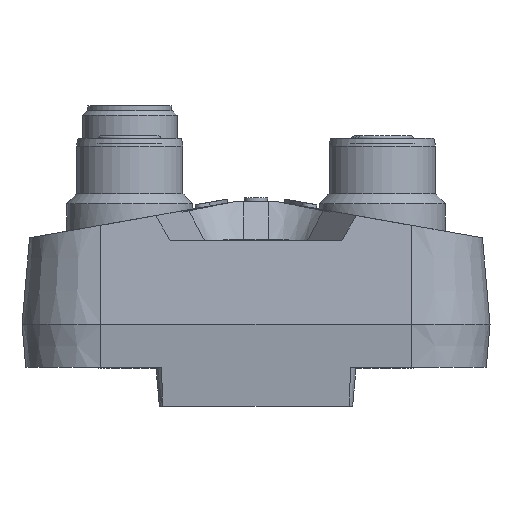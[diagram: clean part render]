
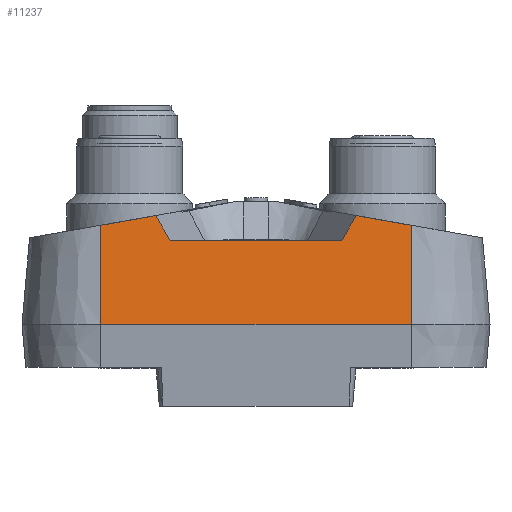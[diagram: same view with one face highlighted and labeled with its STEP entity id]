
A CAD part, front view. The second image highlights one B-rep face of the part: STEP entity #11237.
In plain terms, the highlighted planar face has unit normal (0, -0.996, 0.087).
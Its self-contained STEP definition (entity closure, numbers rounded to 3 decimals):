
#1029=ORIENTED_EDGE('',*,*,#3216,.F.);
#1030=ORIENTED_EDGE('',*,*,#3211,.F.);
#1031=ORIENTED_EDGE('',*,*,#3217,.T.);
#1032=ORIENTED_EDGE('',*,*,#3218,.T.);
#1033=ORIENTED_EDGE('',*,*,#3219,.F.);
#1034=ORIENTED_EDGE('',*,*,#3208,.F.);
#1035=ORIENTED_EDGE('',*,*,#3220,.F.);
#1036=ORIENTED_EDGE('',*,*,#3221,.F.);
#3208=EDGE_CURVE('',#4297,#4298,#4983,.F.);
#3211=EDGE_CURVE('',#4300,#4301,#4985,.F.);
#3216=EDGE_CURVE('',#4301,#4305,#4989,.F.);
#3217=EDGE_CURVE('',#4300,#4306,#4990,.T.);
#3218=EDGE_CURVE('',#4306,#4307,#4991,.T.);
#3219=EDGE_CURVE('',#4298,#4307,#4992,.T.);
#3220=EDGE_CURVE('',#4308,#4297,#4993,.F.);
#3221=EDGE_CURVE('',#4305,#4308,#4994,.F.);
#4297=VERTEX_POINT('',#15731);
#4298=VERTEX_POINT('',#15733);
#4300=VERTEX_POINT('',#15739);
#4301=VERTEX_POINT('',#15740);
#4305=VERTEX_POINT('',#15750);
#4306=VERTEX_POINT('',#15752);
#4307=VERTEX_POINT('',#15754);
#4308=VERTEX_POINT('',#15757);
#4983=LINE('',#15732,#5543);
#4985=LINE('',#15738,#5545);
#4989=LINE('',#15749,#5549);
#4990=LINE('',#15751,#5550);
#4991=LINE('',#15753,#5551);
#4992=LINE('',#15755,#5552);
#4993=LINE('',#15756,#5553);
#4994=LINE('',#15758,#5554);
#5543=VECTOR('',#13064,1000.);
#5545=VECTOR('',#13070,1000.);
#5549=VECTOR('',#13078,1000.);
#5550=VECTOR('',#13079,1000.);
#5551=VECTOR('',#13080,1000.);
#5552=VECTOR('',#13081,1000.);
#5553=VECTOR('',#13082,1000.);
#5554=VECTOR('',#13083,1000.);
#6060=EDGE_LOOP('',(#1029,#1030,#1031,#1032,#1033,#1034,#1035,#1036));
#6756=FACE_BOUND('',#6060,.T.);
#7436=PLANE('',#11849);
#11237=ADVANCED_FACE('',(#6756),#7436,.T.);
#11849=AXIS2_PLACEMENT_3D('',#15748,#13076,#13077);
#13064=DIRECTION('',(-0.985,0.015,0.174));
#13070=DIRECTION('',(-0.985,-0.015,-0.174));
#13076=DIRECTION('',(0.,-0.996,0.087));
#13077=DIRECTION('',(0.,-0.087,-0.996));
#13078=DIRECTION('',(-0.505,0.075,0.86));
#13079=DIRECTION('',(0.,-0.087,-0.996));
#13080=DIRECTION('',(1.,0.,0.));
#13081=DIRECTION('',(0.,-0.087,-0.996));
#13082=DIRECTION('',(-0.505,-0.075,-0.86));
#13083=DIRECTION('',(-1.,0.,0.));
#15731=CARTESIAN_POINT('',(12.72,1.207,13.792));
#15732=CARTESIAN_POINT('',(-16.291,1.654,18.907));
#15733=CARTESIAN_POINT('',(19.65,1.1,12.57));
#15738=CARTESIAN_POINT('',(-21.816,1.066,12.188));
#15739=CARTESIAN_POINT('',(-19.65,1.1,12.57));
#15740=CARTESIAN_POINT('',(-12.72,1.207,13.792));
#15748=CARTESIAN_POINT('',(-19.65,0.,0.));
#15749=CARTESIAN_POINT('',(-8.453,0.571,6.526));
#15750=CARTESIAN_POINT('',(-10.875,0.932,10.65));
#15751=CARTESIAN_POINT('',(-19.65,0.,0.));
#15752=CARTESIAN_POINT('',(-19.65,0.,0.));
#15753=CARTESIAN_POINT('',(-19.65,0.,0.));
#15754=CARTESIAN_POINT('',(19.65,0.,0.));
#15755=CARTESIAN_POINT('',(19.65,0.,0.));
#15756=CARTESIAN_POINT('',(-1.57,-0.922,-10.539));
#15757=CARTESIAN_POINT('',(10.875,0.932,10.65));
#15758=CARTESIAN_POINT('',(-19.65,0.932,10.65));
